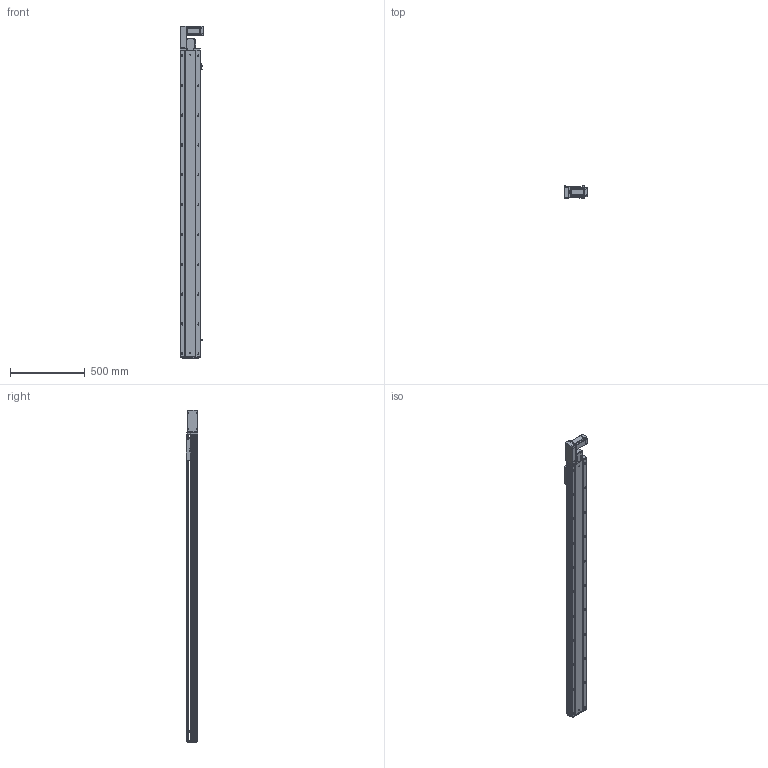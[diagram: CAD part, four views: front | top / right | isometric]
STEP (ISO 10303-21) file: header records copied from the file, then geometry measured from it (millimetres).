
FILE_DESCRIPTION (( 'STEP AP203' ), '1' );
FILE_NAME ('RY140-T-300-LK.SLDASM_1800.step', '2021-03-01T06:36:44', ( '盈信电脑' ), ( '东莞市道滘镇水果街19号' ), 'SwSTEP 2.0', 'SolidWorks 2012', '' );
FILE_SCHEMA (( 'CONFIG_CONTROL_DESIGN' ));
Length unit declared in the file: millimetre
Products named in the file (18): 15; RY120-T主同步轮轴承压盖; 侂狟400W侜督萇儂; RY140-T萇儂假蚾啣; RY140-T翋肮祭謫盓傅釱; RY120-T肮祭湍揤踡輸1; RY120-T肮祭湍揤踡輸2; RY140綴裔啣; RY120外置感应片(140共用）; 覜茼ん672; RY140-T-300-DL倰第奻裔啣_1800; RY140-T-300-DL倰第菁釱_1800; RY140肮祭謫臏賑輸; RY140-T-300-LK.SLDASM_1800; RY140-T翋肮謫裔啣; 滅袉蝶18-10; RY140-T萇儂欶; RY120-T蹟翐M4
Assembly tree (23 placements, depth 3):
  RY140-T-300-LK.SLDASM_1800
    RY140-T-300-DL倰第菁釱_1800
    RY140肮祭謫臏賑輸
    RY140-T-300-DL倰第奻裔啣_1800
    RY140綴裔啣
    覜茼ん672  x3
    RY120外置感应片(140共用）
    RY120-T肮祭湍揤踡輸2
    RY120-T肮祭湍揤踡輸1
    RY140-T翋肮祭謫盓傅釱
    RY140-T萇儂假蚾啣
    侂狟400W侜督萇儂
      15
    RY120-T主同步轮轴承压盖
    RY120-T蹟翐M4  x4
    RY140-T萇儂欶
    滅袉蝶18-10  x2
    RY140-T翋肮謫裔啣
Bounding box: 157 x 78 x 2226.5 mm (x, y, z)
Volume: 5909860.3 mm3; surface area: 2305586.2 mm2
Topology: 22 solids, 22 shells, 2851 faces, 7829 edges, 4986 vertices
Faces by surface type: plane 1385, cylinder 1088, cone 278, bspline 100
Entity records: 90193 total; most frequent: CARTESIAN_POINT 21909, ORIENTED_EDGE 14026, DIRECTION 13405, EDGE_CURVE 7013, VERTEX_POINT 4585, AXIS2_PLACEMENT_3D 4504, VECTOR 4397, LINE 4397
